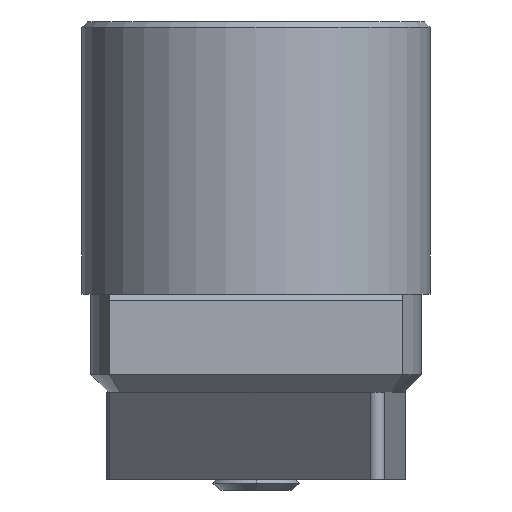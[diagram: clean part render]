
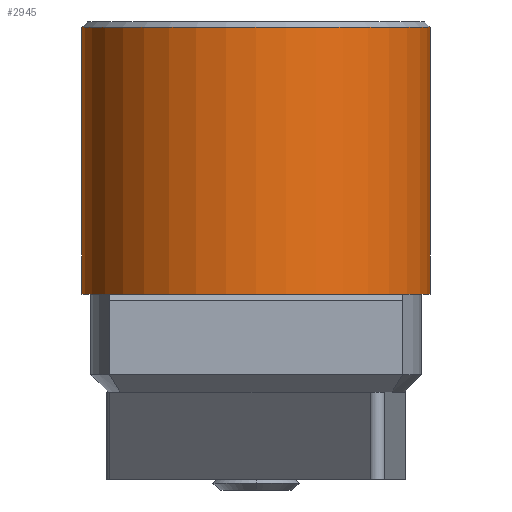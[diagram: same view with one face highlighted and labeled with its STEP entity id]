
A CAD part, front view. The second image highlights one B-rep face of the part: STEP entity #2945.
In plain terms, the highlighted cylindrical face has radius 16 mm (diameter 32 mm), a partial arc.
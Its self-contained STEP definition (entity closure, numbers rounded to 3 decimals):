
#150 = VERTEX_POINT ( 'NONE', #1087 ) ;
#194 = EDGE_CURVE ( 'NONE', #229, #195, #1135, .T. ) ;
#195 = VERTEX_POINT ( 'NONE', #1194 ) ;
#198 = VERTEX_POINT ( 'NONE', #1188 ) ;
#200 = EDGE_CURVE ( 'NONE', #150, #198, #1187, .T. ) ;
#216 = EDGE_LOOP ( 'NONE', ( #2944, #2939, #2920, #2919 ) ) ;
#229 = VERTEX_POINT ( 'NONE', #1259 ) ;
#1087 = CARTESIAN_POINT ( 'NONE',  ( -16., 0., 24.5 ) ) ;
#1135 = LINE ( 'NONE', #1197, #1196 ) ;
#1184 = DIRECTION ( 'NONE',  ( 0., 0., -1. ) ) ;
#1185 = VECTOR ( 'NONE', #1184, 1000. ) ;
#1186 = CARTESIAN_POINT ( 'NONE',  ( -16., 0., 25. ) ) ;
#1187 = LINE ( 'NONE', #1186, #1185 ) ;
#1188 = CARTESIAN_POINT ( 'NONE',  ( -16., 0., 0. ) ) ;
#1194 = CARTESIAN_POINT ( 'NONE',  ( 16., 0., 0. ) ) ;
#1195 = DIRECTION ( 'NONE',  ( 0., 0., -1. ) ) ;
#1196 = VECTOR ( 'NONE', #1195, 1000. ) ;
#1197 = CARTESIAN_POINT ( 'NONE',  ( 16., 0., 25. ) ) ;
#1259 = CARTESIAN_POINT ( 'NONE',  ( 16., 0., 24.5 ) ) ;
#2293 = DIRECTION ( 'NONE',  ( 1., 0., 0. ) ) ;
#2294 = DIRECTION ( 'NONE',  ( 0., 0., -1. ) ) ;
#2295 = CARTESIAN_POINT ( 'NONE',  ( 0., 0., 24.5 ) ) ;
#2296 = AXIS2_PLACEMENT_3D ( 'NONE', #2295, #2294, #2293 ) ;
#2297 = CIRCLE ( 'NONE', #2296, 16. ) ;
#2344 = DIRECTION ( 'NONE',  ( -1., 0., 0. ) ) ;
#2345 = DIRECTION ( 'NONE',  ( 0., 0., -1. ) ) ;
#2346 = AXIS2_PLACEMENT_3D ( 'NONE', #2347, #2345, #2344 ) ;
#2347 = CARTESIAN_POINT ( 'NONE',  ( 0., 0., 25. ) ) ;
#2348 = CYLINDRICAL_SURFACE ( 'NONE', #2346, 16. ) ;
#2349 = FACE_OUTER_BOUND ( 'NONE', #216, .T. ) ;
#2362 = DIRECTION ( 'NONE',  ( 1., 0., 0. ) ) ;
#2363 = DIRECTION ( 'NONE',  ( 0., 0., 1. ) ) ;
#2364 = AXIS2_PLACEMENT_3D ( 'NONE', #2369, #2363, #2362 ) ;
#2365 = CIRCLE ( 'NONE', #2364, 16. ) ;
#2369 = CARTESIAN_POINT ( 'NONE',  ( 0., 0., 0. ) ) ;
#2919 = ORIENTED_EDGE ( 'NONE', *, *, #2966, .T. ) ;
#2920 = ORIENTED_EDGE ( 'NONE', *, *, #200, .T. ) ;
#2937 = EDGE_CURVE ( 'NONE', #229, #150, #2297, .T. ) ;
#2939 = ORIENTED_EDGE ( 'NONE', *, *, #2937, .T. ) ;
#2944 = ORIENTED_EDGE ( 'NONE', *, *, #194, .F. ) ;
#2945 = ADVANCED_FACE ( 'NONE', ( #2349 ), #2348, .T. ) ;
#2966 = EDGE_CURVE ( 'NONE', #198, #195, #2365, .T. ) ;
